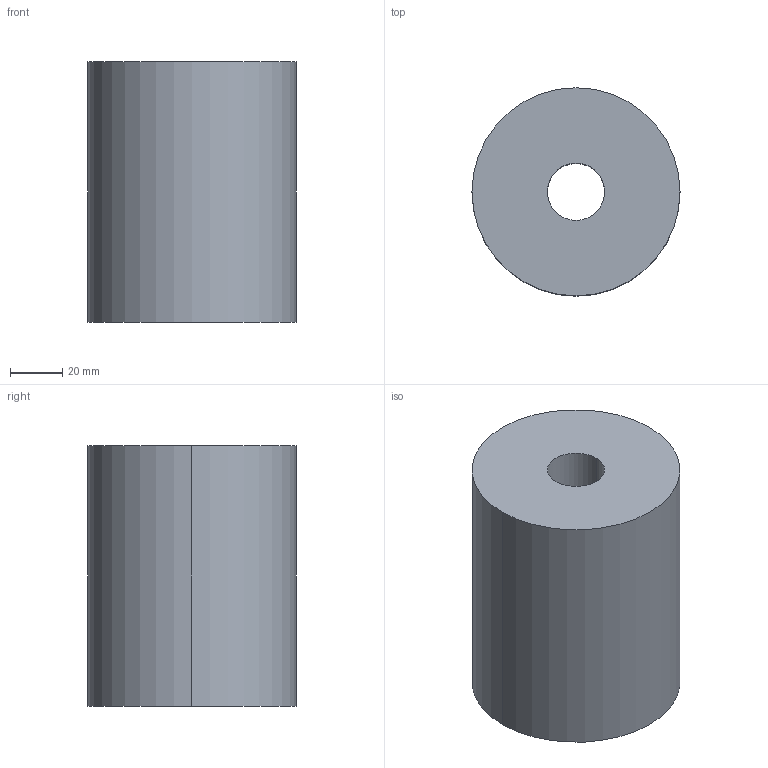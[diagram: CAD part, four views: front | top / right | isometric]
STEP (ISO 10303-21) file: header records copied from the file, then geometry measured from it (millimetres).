
FILE_DESCRIPTION(/* description */ (''),/* implementation_level */ '2;1');
FILE_NAME(/* name */ '3d_pa80-100_04921_r00.stp',/* time_stamp */ '2011-01-10T14:11:57+09:00',/* author */ ('MISUMI'),/* organization */ (''),/* preprocessor_version */ 'ST-DEVELOPER v11',/* originating_system */ 'UGS - NX 5.0',/* authorisation */ '');
FILE_SCHEMA (('CONFIG_CONTROL_DESIGN'));
Length unit declared in the file: millimetre
Products named in the file (1): 3d_pa80-100_04921_r00
Bounding box: 80 x 80 x 100 mm (x, y, z)
Volume: 464641.5 mm3; surface area: 41337.1 mm2
Topology: 1 solids, 1 shells, 6 faces, 12 edges, 8 vertices
Faces by surface type: cylinder 4, plane 2
Entity records: 254 total; most frequent: DIRECTION 34, CARTESIAN_POINT 27, ORIENTED_EDGE 24, AXIS2_PLACEMENT_3D 15, EDGE_CURVE 12, EDGE_LOOP 8, VERTEX_POINT 8, CIRCLE 8
